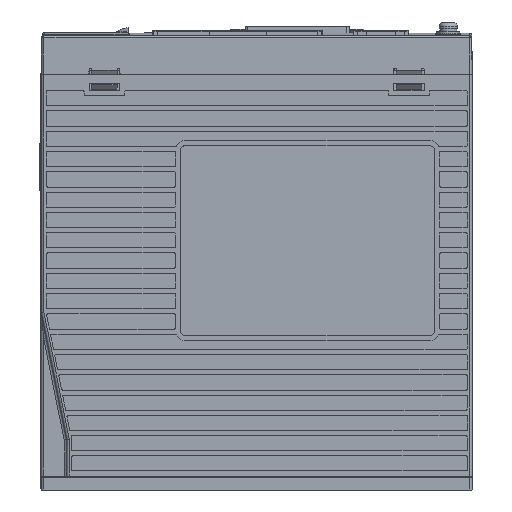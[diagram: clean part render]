
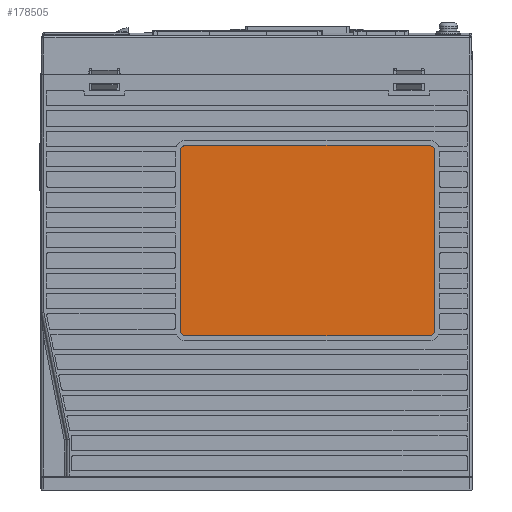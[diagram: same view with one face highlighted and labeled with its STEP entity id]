
A CAD part, left-side view. The second image highlights one B-rep face of the part: STEP entity #178505.
In plain terms, the highlighted planar face has unit normal (-1, 0, 0).
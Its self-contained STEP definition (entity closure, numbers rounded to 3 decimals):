
#40031=DIRECTION('',(0.,0.,-1.));
#40032=VECTOR('',#40031,71.);
#40033=CARTESIAN_POINT('',(0.3,30.,133.8));
#40034=LINE('',#40033,#40032);
#40052=DIRECTION('',(0.,1.,0.));
#40053=VECTOR('',#40052,96.);
#40054=CARTESIAN_POINT('',(0.3,-68.,135.8));
#40055=LINE('',#40054,#40053);
#40059=DIRECTION('',(0.,-1.,0.));
#40060=VECTOR('',#40059,96.);
#40061=CARTESIAN_POINT('',(0.3,28.,60.8));
#40062=LINE('',#40061,#40060);
#40081=CARTESIAN_POINT('',(0.3,28.,62.8));
#40082=DIRECTION('',(-1.,0.,0.));
#40083=DIRECTION('',(0.,1.,0.));
#40084=AXIS2_PLACEMENT_3D('',#40081,#40082,#40083);
#40103=CARTESIAN_POINT('',(0.3,-68.,62.8));
#40104=DIRECTION('',(-1.,0.,0.));
#40105=DIRECTION('',(0.,0.,-1.));
#40106=AXIS2_PLACEMENT_3D('',#40103,#40104,#40105);
#40119=DIRECTION('',(0.,0.,1.));
#40120=VECTOR('',#40119,71.);
#40121=CARTESIAN_POINT('',(0.3,-70.,62.8));
#40122=LINE('',#40121,#40120);
#40155=CARTESIAN_POINT('',(0.3,-68.,133.8));
#40156=DIRECTION('',(-1.,0.,0.));
#40157=DIRECTION('',(0.,-1.,0.));
#40158=AXIS2_PLACEMENT_3D('',#40155,#40156,#40157);
#40177=CARTESIAN_POINT('',(0.3,28.,133.8));
#40178=DIRECTION('',(-1.,0.,0.));
#40179=DIRECTION('',(0.,0.,1.));
#40180=AXIS2_PLACEMENT_3D('',#40177,#40178,#40179);
#134138=CARTESIAN_POINT('',(0.3,28.,60.8));
#134140=VERTEX_POINT('',#134138);
#134142=CARTESIAN_POINT('',(0.3,28.,135.8));
#134144=VERTEX_POINT('',#134142);
#134146=CARTESIAN_POINT('',(0.3,-68.,135.8));
#134148=VERTEX_POINT('',#134146);
#134150=CARTESIAN_POINT('',(0.3,-68.,60.8));
#134152=VERTEX_POINT('',#134150);
#134409=CARTESIAN_POINT('',(0.3,30.,133.8));
#134411=VERTEX_POINT('',#134409);
#134413=CARTESIAN_POINT('',(0.3,-70.,133.8));
#134415=VERTEX_POINT('',#134413);
#136272=CARTESIAN_POINT('',(0.3,30.,62.8));
#136274=VERTEX_POINT('',#136272);
#136276=CARTESIAN_POINT('',(0.3,-70.,62.8));
#136278=VERTEX_POINT('',#136276);
#178483=CARTESIAN_POINT('',(0.3,5.,5.));
#178484=DIRECTION('',(-1.,0.,0.));
#178485=DIRECTION('',(0.,0.,1.));
#178486=AXIS2_PLACEMENT_3D('',#178483,#178484,#178485);
#178487=PLANE('',#178486);
#178489=ORIENTED_EDGE('',*,*,#178488,.F.);
#178490=ORIENTED_EDGE('',*,*,#178473,.F.);
#178492=ORIENTED_EDGE('',*,*,#178491,.F.);
#178494=ORIENTED_EDGE('',*,*,#178493,.F.);
#178496=ORIENTED_EDGE('',*,*,#178495,.F.);
#178498=ORIENTED_EDGE('',*,*,#178497,.F.);
#178500=ORIENTED_EDGE('',*,*,#178499,.F.);
#178502=ORIENTED_EDGE('',*,*,#178501,.F.);
#178503=EDGE_LOOP('',(#178489,#178490,#178492,#178494,#178496,#178498,#178500,
#178502));
#178504=FACE_OUTER_BOUND('',#178503,.F.);
#40085=CIRCLE('',#40084,2.);
#40107=CIRCLE('',#40106,2.);
#40159=CIRCLE('',#40158,2.);
#40181=CIRCLE('',#40180,2.);
#178473=EDGE_CURVE('',#134411,#136274,#40034,.T.);
#178488=EDGE_CURVE('',#136274,#134140,#40085,.T.);
#178491=EDGE_CURVE('',#134144,#134411,#40181,.T.);
#178493=EDGE_CURVE('',#134148,#134144,#40055,.T.);
#178495=EDGE_CURVE('',#134415,#134148,#40159,.T.);
#178497=EDGE_CURVE('',#136278,#134415,#40122,.T.);
#178499=EDGE_CURVE('',#134152,#136278,#40107,.T.);
#178501=EDGE_CURVE('',#134140,#134152,#40062,.T.);
#178505=ADVANCED_FACE('',(#178504),#178487,.T.);
